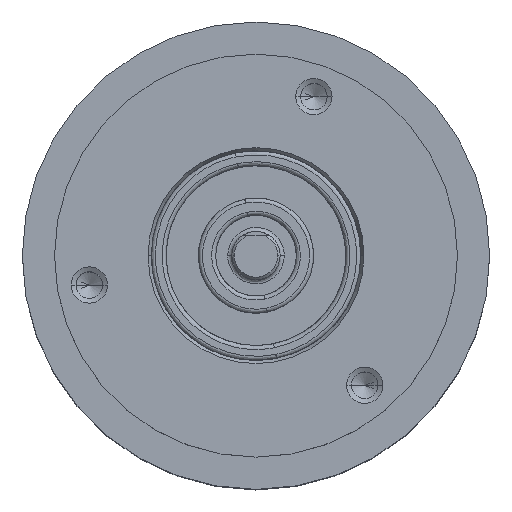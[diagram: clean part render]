
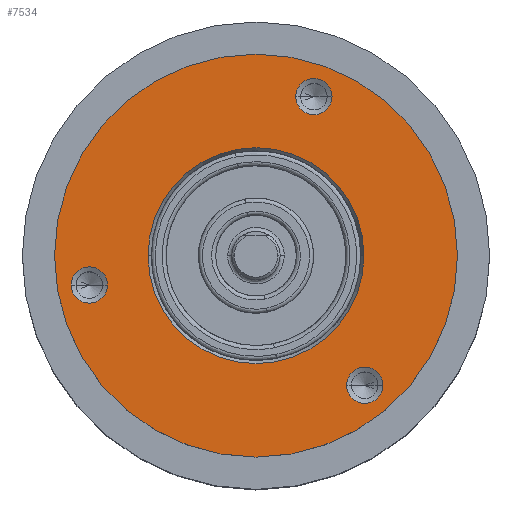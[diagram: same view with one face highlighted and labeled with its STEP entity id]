
A CAD part, top view. The second image highlights one B-rep face of the part: STEP entity #7534.
In plain terms, the highlighted planar face has unit normal (0, 0, 1).
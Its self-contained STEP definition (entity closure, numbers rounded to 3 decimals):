
#238 = EDGE_CURVE ( 'NONE', #4530, #4498, #3227, .T. ) ;
#250 = EDGE_CURVE ( 'NONE', #4603, #4594, #3244, .T. ) ;
#272 = EDGE_CURVE ( 'NONE', #4608, #4521, #3275, .T. ) ;
#307 = EDGE_CURVE ( 'NONE', #4500, #4573, #5910, .T. ) ;
#312 = EDGE_CURVE ( 'NONE', #4560, #4481, #5916, .T. ) ;
#597 = EDGE_CURVE ( 'NONE', #4573, #4500, #6200, .T. ) ;
#1128 = EDGE_CURVE ( 'NONE', #4498, #4530, #2614, .T. ) ;
#1129 = EDGE_CURVE ( 'NONE', #4521, #4608, #2615, .T. ) ;
#1130 = EDGE_CURVE ( 'NONE', #4481, #4560, #2616, .T. ) ;
#1139 = EDGE_CURVE ( 'NONE', #4594, #4603, #2623, .T. ) ;
#1192 = CARTESIAN_POINT ( 'NONE',  ( 13.499, -16.087, 11. ) ) ;
#1193 = DIRECTION ( 'NONE',  ( 0., 0., 1. ) ) ;
#1194 = DIRECTION ( 'NONE',  ( 1., 0., 0. ) ) ;
#2614 = CIRCLE ( 'NONE', #7328, 2.25 ) ;
#2615 = CIRCLE ( 'NONE', #7329, 25. ) ;
#2616 = CIRCLE ( 'NONE', #7330, 13.4 ) ;
#2623 = CIRCLE ( 'NONE', #7334, 2.25 ) ;
#3227 = CIRCLE ( 'NONE', #4385, 2.25 ) ;
#3244 = CIRCLE ( 'NONE', #4400, 2.25 ) ;
#3275 = CIRCLE ( 'NONE', #4426, 25. ) ;
#3601 = EDGE_LOOP ( 'NONE', ( #6773, #6774 ) ) ;
#3616 = EDGE_LOOP ( 'NONE', ( #6781, #6782 ) ) ;
#3621 = EDGE_LOOP ( 'NONE', ( #6779, #6780 ) ) ;
#3664 = EDGE_LOOP ( 'NONE', ( #6775, #6776 ) ) ;
#3732 = EDGE_LOOP ( 'NONE', ( #6777, #6778 ) ) ;
#4385 = AXIS2_PLACEMENT_3D ( 'NONE', #5637, #5638, #5639 ) ;
#4400 = AXIS2_PLACEMENT_3D ( 'NONE', #5669, #5670, #5671 ) ;
#4426 = AXIS2_PLACEMENT_3D ( 'NONE', #5724, #5725, #5726 ) ;
#4458 = AXIS2_PLACEMENT_3D ( 'NONE', #5811, #5812, #5813 ) ;
#4467 = AXIS2_PLACEMENT_3D ( 'NONE', #5825, #5826, #5827 ) ;
#4481 = VERTEX_POINT ( 'NONE', #10613 ) ;
#4498 = VERTEX_POINT ( 'NONE', #10617 ) ;
#4500 = VERTEX_POINT ( 'NONE', #10623 ) ;
#4521 = VERTEX_POINT ( 'NONE', #10634 ) ;
#4530 = VERTEX_POINT ( 'NONE', #10639 ) ;
#4560 = VERTEX_POINT ( 'NONE', #10655 ) ;
#4573 = VERTEX_POINT ( 'NONE', #10662 ) ;
#4594 = VERTEX_POINT ( 'NONE', #10674 ) ;
#4603 = VERTEX_POINT ( 'NONE', #10680 ) ;
#4608 = VERTEX_POINT ( 'NONE', #10683 ) ;
#4746 = AXIS2_PLACEMENT_3D ( 'NONE', #1192, #1193, #1194 ) ;
#5637 = CARTESIAN_POINT ( 'NONE',  ( 7.182, 19.734, 11. ) ) ;
#5638 = DIRECTION ( 'NONE',  ( 0., 0., 1. ) ) ;
#5639 = DIRECTION ( 'NONE',  ( 1., 0., 0. ) ) ;
#5669 = CARTESIAN_POINT ( 'NONE',  ( -20.681, -3.647, 11. ) ) ;
#5670 = DIRECTION ( 'NONE',  ( 0., 0., 1. ) ) ;
#5671 = DIRECTION ( 'NONE',  ( 1., 0., 0. ) ) ;
#5724 = CARTESIAN_POINT ( 'NONE',  ( 0., 0., 11. ) ) ;
#5725 = DIRECTION ( 'NONE',  ( 0., 0., -1. ) ) ;
#5726 = DIRECTION ( 'NONE',  ( -1., 0., 0. ) ) ;
#5811 = CARTESIAN_POINT ( 'NONE',  ( 13.499, -16.087, 11. ) ) ;
#5812 = DIRECTION ( 'NONE',  ( 0., 0., 1. ) ) ;
#5813 = DIRECTION ( 'NONE',  ( 1., 0., 0. ) ) ;
#5825 = CARTESIAN_POINT ( 'NONE',  ( 0., 0., 11. ) ) ;
#5826 = DIRECTION ( 'NONE',  ( 0., 0., -1. ) ) ;
#5827 = DIRECTION ( 'NONE',  ( 1., 0., 0. ) ) ;
#5910 = CIRCLE ( 'NONE', #4458, 2.25 ) ;
#5916 = CIRCLE ( 'NONE', #4467, 13.4 ) ;
#6200 = CIRCLE ( 'NONE', #4746, 2.25 ) ;
#6773 = ORIENTED_EDGE ( 'NONE', *, *, #272, .F. ) ;
#6774 = ORIENTED_EDGE ( 'NONE', *, *, #1129, .F. ) ;
#6775 = ORIENTED_EDGE ( 'NONE', *, *, #1128, .F. ) ;
#6776 = ORIENTED_EDGE ( 'NONE', *, *, #238, .F. ) ;
#6777 = ORIENTED_EDGE ( 'NONE', *, *, #1139, .F. ) ;
#6778 = ORIENTED_EDGE ( 'NONE', *, *, #250, .F. ) ;
#6779 = ORIENTED_EDGE ( 'NONE', *, *, #597, .F. ) ;
#6780 = ORIENTED_EDGE ( 'NONE', *, *, #307, .F. ) ;
#6781 = ORIENTED_EDGE ( 'NONE', *, *, #312, .T. ) ;
#6782 = ORIENTED_EDGE ( 'NONE', *, *, #1130, .T. ) ;
#7328 = AXIS2_PLACEMENT_3D ( 'NONE', #10384, #10385, #10386 ) ;
#7329 = AXIS2_PLACEMENT_3D ( 'NONE', #10387, #10388, #10389 ) ;
#7330 = AXIS2_PLACEMENT_3D ( 'NONE', #10392, #10393, #10394 ) ;
#7334 = AXIS2_PLACEMENT_3D ( 'NONE', #10458, #10459, #10460 ) ;
#7429 = AXIS2_PLACEMENT_3D ( 'NONE', #11778, #11770, #11780 ) ;
#7534 = ADVANCED_FACE ( 'NONE', ( #11664, #11667, #11649, #11659, #11665 ), #11776, .F. ) ;
#10384 = CARTESIAN_POINT ( 'NONE',  ( 7.182, 19.734, 11. ) ) ;
#10385 = DIRECTION ( 'NONE',  ( 0., 0., 1. ) ) ;
#10386 = DIRECTION ( 'NONE',  ( 1., 0., 0. ) ) ;
#10387 = CARTESIAN_POINT ( 'NONE',  ( 0., 0., 11. ) ) ;
#10388 = DIRECTION ( 'NONE',  ( 0., 0., -1. ) ) ;
#10389 = DIRECTION ( 'NONE',  ( -1., 0., 0. ) ) ;
#10392 = CARTESIAN_POINT ( 'NONE',  ( 0., 0., 11. ) ) ;
#10393 = DIRECTION ( 'NONE',  ( 0., 0., -1. ) ) ;
#10394 = DIRECTION ( 'NONE',  ( 1., 0., 0. ) ) ;
#10458 = CARTESIAN_POINT ( 'NONE',  ( -20.681, -3.647, 11. ) ) ;
#10459 = DIRECTION ( 'NONE',  ( 0., 0., 1. ) ) ;
#10460 = DIRECTION ( 'NONE',  ( 1., 0., 0. ) ) ;
#10613 = CARTESIAN_POINT ( 'NONE',  ( -13.4, 0., 11. ) ) ;
#10617 = CARTESIAN_POINT ( 'NONE',  ( 9.432, 19.734, 11. ) ) ;
#10623 = CARTESIAN_POINT ( 'NONE',  ( 11.249, -16.087, 11. ) ) ;
#10634 = CARTESIAN_POINT ( 'NONE',  ( 25., 0., 11. ) ) ;
#10639 = CARTESIAN_POINT ( 'NONE',  ( 4.932, 19.734, 11. ) ) ;
#10655 = CARTESIAN_POINT ( 'NONE',  ( 13.4, 0., 11. ) ) ;
#10662 = CARTESIAN_POINT ( 'NONE',  ( 15.749, -16.087, 11. ) ) ;
#10674 = CARTESIAN_POINT ( 'NONE',  ( -18.431, -3.647, 11. ) ) ;
#10680 = CARTESIAN_POINT ( 'NONE',  ( -22.931, -3.647, 11. ) ) ;
#10683 = CARTESIAN_POINT ( 'NONE',  ( -25., 0., 11. ) ) ;
#11649 = FACE_BOUND ( 'NONE', #3732, .T. ) ;
#11659 = FACE_BOUND ( 'NONE', #3621, .T. ) ;
#11664 = FACE_OUTER_BOUND ( 'NONE', #3601, .T. ) ;
#11665 = FACE_BOUND ( 'NONE', #3616, .T. ) ;
#11667 = FACE_BOUND ( 'NONE', #3664, .T. ) ;
#11770 = DIRECTION ( 'NONE',  ( 0., 0., -1. ) ) ;
#11776 = PLANE ( 'NONE',  #7429 ) ;
#11778 = CARTESIAN_POINT ( 'NONE',  ( 0., 25., 11. ) ) ;
#11780 = DIRECTION ( 'NONE',  ( -1., 0., 0. ) ) ;
